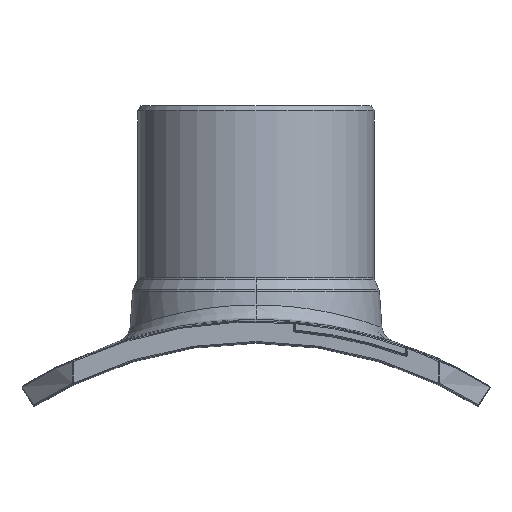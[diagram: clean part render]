
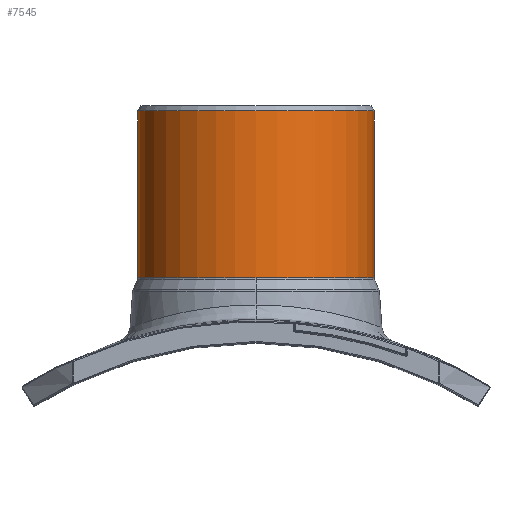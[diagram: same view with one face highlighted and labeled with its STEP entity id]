
A CAD part, top view. The second image highlights one B-rep face of the part: STEP entity #7545.
In plain terms, the highlighted cylindrical face has radius 112.5 mm (diameter 225 mm), a partial arc.
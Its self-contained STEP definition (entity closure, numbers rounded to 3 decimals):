
#1529=CARTESIAN_POINT('',(0.,462.083,0.));
#1530=DIRECTION('',(0.,-1.,0.));
#1531=DIRECTION('',(1.,0.,0.));
#1532=AXIS2_PLACEMENT_3D('',#1529,#1530,#1531);
#1537=CARTESIAN_POINT('',(0.,462.083,0.));
#1538=DIRECTION('',(0.,-1.,0.));
#1539=DIRECTION('',(0.,0.,1.));
#1540=AXIS2_PLACEMENT_3D('',#1537,#1538,#1539);
#1545=DIRECTION('',(0.,-1.,0.));
#1546=VECTOR('',#1545,158.917);
#1547=CARTESIAN_POINT('',(-112.5,621.,0.));
#1548=LINE('151588',#1547,#1546);
#1552=DIRECTION('',(0.,-1.,0.));
#1553=VECTOR('',#1552,158.917);
#1554=CARTESIAN_POINT('',(112.5,621.,0.));
#1555=LINE('151587',#1554,#1553);
#1606=CARTESIAN_POINT('',(0.,621.,0.));
#1607=DIRECTION('',(0.,1.,0.));
#1608=DIRECTION('',(-1.,0.,0.));
#1609=AXIS2_PLACEMENT_3D('',#1606,#1607,#1608);
#5976=CARTESIAN_POINT('',(112.5,621.,0.));
#5977=CARTESIAN_POINT('',(-112.5,621.,0.));
#5978=VERTEX_POINT('',#5976);
#5979=VERTEX_POINT('',#5977);
#6000=CARTESIAN_POINT('',(112.5,462.083,0.));
#6001=CARTESIAN_POINT('',(0.,462.083,112.5));
#6002=VERTEX_POINT('',#6000);
#6003=VERTEX_POINT('',#6001);
#6004=CARTESIAN_POINT('',(-112.5,462.083,0.));
#6005=VERTEX_POINT('',#6004);
#7530=CARTESIAN_POINT('',(0.,626.,0.));
#7531=DIRECTION('',(0.,1.,0.));
#7532=DIRECTION('',(1.,0.,0.));
#7533=AXIS2_PLACEMENT_3D('',#7530,#7531,#7532);
#7534=CYLINDRICAL_SURFACE('4584',#7533,112.5);
#7535=ORIENTED_EDGE('151579',*,*,#7507,.T.);
#7536=ORIENTED_EDGE('151581',*,*,#7522,.T.);
#7538=ORIENTED_EDGE('151588',*,*,#7537,.F.);
#7540=ORIENTED_EDGE('4600',*,*,#7539,.T.);
#7542=ORIENTED_EDGE('151587',*,*,#7541,.T.);
#7543=EDGE_LOOP('4584',(#7535,#7536,#7538,#7540,#7542));
#7544=FACE_OUTER_BOUND('4584',#7543,.F.);
#1533=CIRCLE('151579',#1532,112.5);
#1541=CIRCLE('151581',#1540,112.5);
#1610=CIRCLE('4600',#1609,112.5);
#7507=EDGE_CURVE('151579',#6002,#6003,#1533,.T.);
#7522=EDGE_CURVE('151581',#6003,#6005,#1541,.T.);
#7537=EDGE_CURVE('151588',#5979,#6005,#1548,.T.);
#7539=EDGE_CURVE('4600',#5979,#5978,#1610,.T.);
#7541=EDGE_CURVE('151587',#5978,#6002,#1555,.T.);
#7545=ADVANCED_FACE('4584',(#7544),#7534,.T.);
